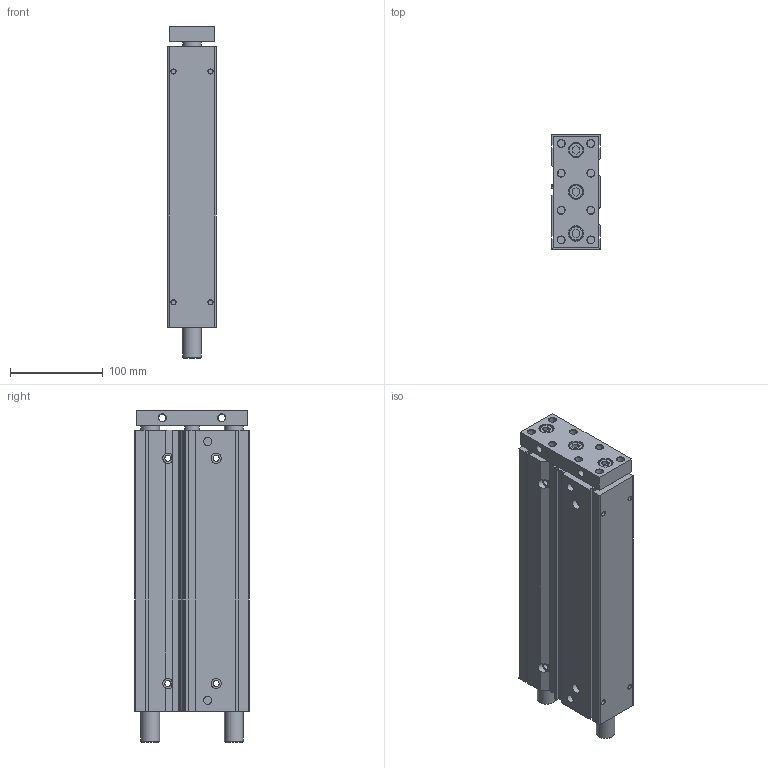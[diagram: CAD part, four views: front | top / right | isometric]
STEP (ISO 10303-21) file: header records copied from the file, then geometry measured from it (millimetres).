
FILE_DESCRIPTION((''),'2;1');
FILE_NAME('I:\3D電子目錄\氣缸\TB(U)\TB(U)40\TB(U)40\TB(U)40x250.stp','2007-08-06T09:17:52',('Administrator'),(''),'Autodesk Inventor 2008','Autodesk Inventor 2008','');
FILE_SCHEMA(('AUTOMOTIVE_DESIGN { 1 0 10303 214 1 1 1 1 }'));
Length unit declared in the file: millimetre
Products named in the file (1): TB(U)40X250
Bounding box: 52 x 124 x 358 mm (x, y, z)
Volume: 1932060 mm3; surface area: 184376.8 mm2
Topology: 1 solids, 1 shells, 218 faces, 500 edges, 320 vertices
Faces by surface type: plane 104, cylinder 52, cone 37, bspline 22, torus 3
Full cylindrical faces by diameter (mm): 5 x4, 6 x4, 6.5 x4, 8 x10, 9 x2, 11 x6, 15 x3, 16 x4, 20 x4, 28 x2, 35 x1
Entity records: 5822 total; most frequent: CARTESIAN_POINT 1073, DIRECTION 962, ORIENTED_EDGE 824, EDGE_CURVE 412, EDGE_LOOP 374, AXIS2_PLACEMENT_3D 353, VERTEX_POINT 320, VECTOR 256
